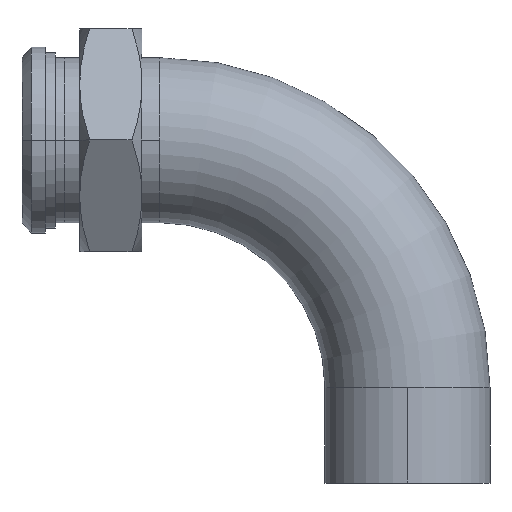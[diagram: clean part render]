
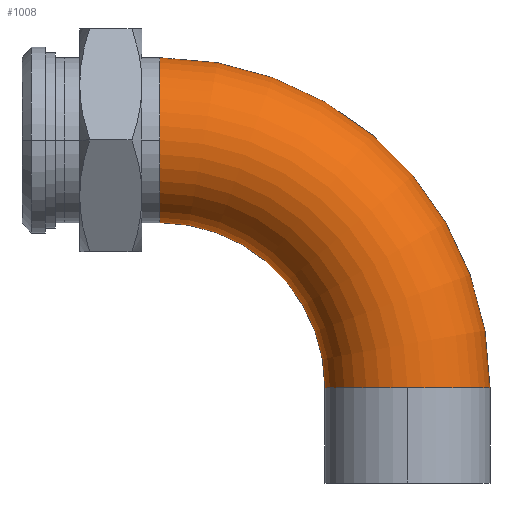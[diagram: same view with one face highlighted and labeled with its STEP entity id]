
A CAD part, top view. The second image highlights one B-rep face of the part: STEP entity #1008.
In plain terms, the highlighted toroidal (fillet/blend) face has major radius 152.4 mm and minor radius 50.8 mm.
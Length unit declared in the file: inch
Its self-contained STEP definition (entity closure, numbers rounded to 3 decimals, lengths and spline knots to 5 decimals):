
#12 = AXIS2_PLACEMENT_3D ( 'NONE', #3211, #949, #3593 ) ;
#40 = CARTESIAN_POINT ( 'NONE',  ( -6., 2.312, 0. ) ) ;
#42 = CARTESIAN_POINT ( 'NONE',  ( 2., 2.312, 0. ) ) ;
#328 = EDGE_LOOP ( 'NONE', ( #1881, #689, #2336, #1786, #719, #4075 ) ) ;
#333 = AXIS2_PLACEMENT_3D ( 'NONE', #40, #2701, #432 ) ;
#418 = EDGE_CURVE ( 'NONE', #3846, #979, #4771, .T. ) ;
#432 = DIRECTION ( 'NONE',  ( 1., 0., 0. ) ) ;
#509 = CIRCLE ( 'NONE', #1354, 4. ) ;
#586 = AXIS2_PLACEMENT_3D ( 'NONE', #1817, #4447, #2204 ) ;
#590 = CARTESIAN_POINT ( 'NONE',  ( -6., 2.312, 0. ) ) ;
#689 = ORIENTED_EDGE ( 'NONE', *, *, #3831, .T. ) ;
#719 = ORIENTED_EDGE ( 'NONE', *, *, #3972, .F. ) ;
#798 = AXIS2_PLACEMENT_3D ( 'NONE', #1229, #3856, #1600 ) ;
#812 = TOROIDAL_SURFACE ( 'NONE', #333, 6., 2. ) ;
#949 = DIRECTION ( 'NONE',  ( -1., 0., 0. ) ) ;
#963 = CARTESIAN_POINT ( 'NONE',  ( 0., 2.312, 2. ) ) ;
#969 = DIRECTION ( 'NONE',  ( 1., 0., 0. ) ) ;
#979 = VERTEX_POINT ( 'NONE', #1746 ) ;
#1008 = ADVANCED_FACE ( 'NONE', ( #2708 ), #812, .T. ) ;
#1054 = AXIS2_PLACEMENT_3D ( 'NONE', #1109, #3742, #1484 ) ;
#1109 = CARTESIAN_POINT ( 'NONE',  ( 0., 2.312, 0. ) ) ;
#1229 = CARTESIAN_POINT ( 'NONE',  ( -6., 8.312, 0. ) ) ;
#1306 = CARTESIAN_POINT ( 'NONE',  ( -6., 10.312, 0. ) ) ;
#1354 = AXIS2_PLACEMENT_3D ( 'NONE', #4022, #1773, #4408 ) ;
#1406 = CIRCLE ( 'NONE', #1054, 2. ) ;
#1484 = DIRECTION ( 'NONE',  ( 0., 0., 1. ) ) ;
#1530 = VERTEX_POINT ( 'NONE', #42 ) ;
#1600 = DIRECTION ( 'NONE',  ( 0., 0., 1. ) ) ;
#1610 = AXIS2_PLACEMENT_3D ( 'NONE', #590, #3242, #969 ) ;
#1746 = CARTESIAN_POINT ( 'NONE',  ( -6., 8.312, 2. ) ) ;
#1773 = DIRECTION ( 'NONE',  ( 0., 0., 1. ) ) ;
#1786 = ORIENTED_EDGE ( 'NONE', *, *, #418, .F. ) ;
#1817 = CARTESIAN_POINT ( 'NONE',  ( 0., 2.312, 0. ) ) ;
#1881 = ORIENTED_EDGE ( 'NONE', *, *, #4109, .T. ) ;
#2155 = CIRCLE ( 'NONE', #1610, 8. ) ;
#2204 = DIRECTION ( 'NONE',  ( 0., 0., 1. ) ) ;
#2273 = CIRCLE ( 'NONE', #586, 2. ) ;
#2336 = ORIENTED_EDGE ( 'NONE', *, *, #4613, .F. ) ;
#2701 = DIRECTION ( 'NONE',  ( 0., 0., 1. ) ) ;
#2708 = FACE_OUTER_BOUND ( 'NONE', #328, .T. ) ;
#3198 = CARTESIAN_POINT ( 'NONE',  ( -6., 6.312, 0. ) ) ;
#3211 = CARTESIAN_POINT ( 'NONE',  ( -6., 8.312, 0. ) ) ;
#3242 = DIRECTION ( 'NONE',  ( 0., 0., 1. ) ) ;
#3593 = DIRECTION ( 'NONE',  ( 0., 0., 1. ) ) ;
#3742 = DIRECTION ( 'NONE',  ( 0., 1., 0. ) ) ;
#3831 = EDGE_CURVE ( 'NONE', #1530, #4752, #2155, .T. ) ;
#3846 = VERTEX_POINT ( 'NONE', #3198 ) ;
#3856 = DIRECTION ( 'NONE',  ( -1., 0., 0. ) ) ;
#3972 = EDGE_CURVE ( 'NONE', #4522, #3846, #509, .T. ) ;
#4022 = CARTESIAN_POINT ( 'NONE',  ( -6., 2.312, 0. ) ) ;
#4056 = EDGE_CURVE ( 'NONE', #4522, #4650, #2273, .T. ) ;
#4075 = ORIENTED_EDGE ( 'NONE', *, *, #4056, .T. ) ;
#4109 = EDGE_CURVE ( 'NONE', #4650, #1530, #1406, .T. ) ;
#4274 = CARTESIAN_POINT ( 'NONE',  ( -2., 2.312, 0. ) ) ;
#4408 = DIRECTION ( 'NONE',  ( 1., 0., 0. ) ) ;
#4447 = DIRECTION ( 'NONE',  ( 0., 1., 0. ) ) ;
#4448 = CIRCLE ( 'NONE', #12, 2. ) ;
#4522 = VERTEX_POINT ( 'NONE', #4274 ) ;
#4613 = EDGE_CURVE ( 'NONE', #979, #4752, #4448, .T. ) ;
#4650 = VERTEX_POINT ( 'NONE', #963 ) ;
#4752 = VERTEX_POINT ( 'NONE', #1306 ) ;
#4771 = CIRCLE ( 'NONE', #798, 2. ) ;
